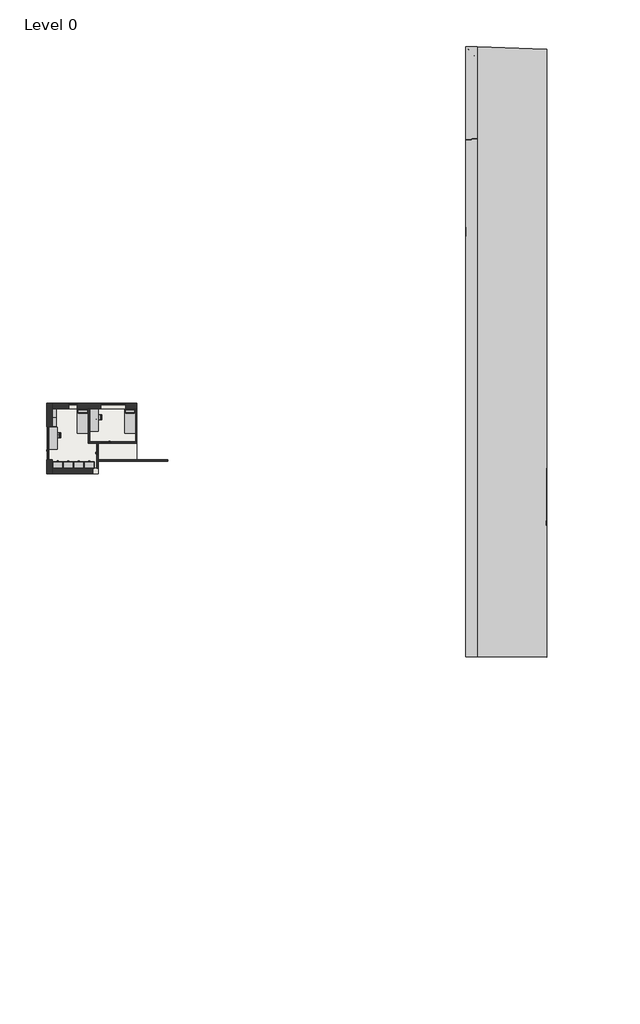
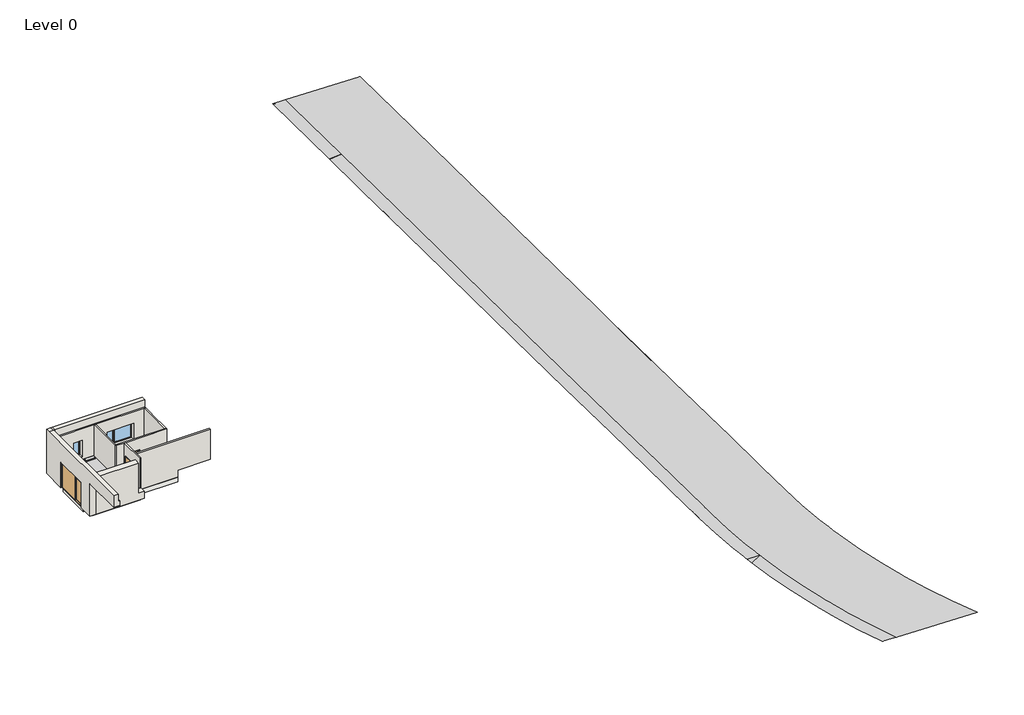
# One storey, incomplete: 12 furniture elements, 8 walls, 3 doors, 2 proxies, 2 windows, 1 slab.
"""IFC4 building model written with IfcOpenShell, lengths in millimetres."""

from ifc_helpers import new_model, si_unit, frame, origin, place, context, project, spatial, polyline, outline, extrude, faceted_brep, triangles, transform, mapped, element, save
from components import ext_door_window_assembly_glass_2880x2200_mm_8e24472b, int_single_flush1_900x2200_mm_083ae047, int_single_flush1_900x2200_mm_924e3177, furniture_56f83323, furniture_1900_x_700mm_ac9d8d07, furniture_750_x_300_x_700mm_660817c4, bed_standard_2100_x_900mm_af0b1266, tall_cabinet_double_door_900_mm_12ca9f50, single_light_720x1400_mm_50d61ae6, window_assembly_individual_2160x1400_mm_9c06a6f2

model = new_model("IFC4")

# Units and contexts
model_context = context("Model", 3, world=origin())
ifc_project = project(units=[si_unit("LENGTHUNIT", "METRE", prefix="MILLI")], contexts=[model_context])

# Site, building, storey
site = spatial("IfcSite", under=ifc_project)
building = spatial("IfcBuilding", under=site)
storey = spatial("IfcBuildingStorey", under=building, Name="Level 0", Elevation=-600.0)

# Proxies
placement = place(None, origin())
element("IfcBuildingElementProxy", 1, Name="Building Element Proxy", at=placement, inside=storey, context=model_context, shape_type="Tessellation", body=[
    triangles([(43181.6805176, 40515.4990723, -100.0000008), (37203.5361145, 40724.2584229, -100.0000008), (37199.9991211, 40724.3839966, -100.0000008), (37199.9991211, 39671.6947632, -86.6964796), (37199.9991211, 32813.720343, 0.0), (37199.9991211, 32782.3641174, 0.3775577), (37199.9991211, 25025.3120178, 100.0000008), (37199.9991211, 15908.9126587, 198.5837907), (37199.9991211, 15779.7519379, 200.0000015), (37199.9991211, 15651.9027649, 201.4311097), (37199.9991211, 6719.0625504, 300.0000023), (37199.9991211, 6686.3662903, 300.4406549), (37199.9991211, -516.6359433, 400.0000031), (37199.9991211, -544.085794, 400.4496486), (37199.9991211, -6997.0037247, 500.0000038), (37199.9991211, -6998.7687332, 500.0334683), (37199.9991211, -11963.7174225, 600.0000046), (37199.9991211, -18366.1940643, 696.1991472), (37199.9991211, -18619.0902557, 700.0000053), (37199.9991211, -18662.7050354, 700.6330336), (37199.9991211, -19440.043634, 712.0087927), (37243.5825073, -21707.3866333, 745.2285673), (37374.2652283, -23971.3809998, 778.4773373), (37479.7959961, -25066.1630127, 794.5930687), (37513.2939514, -25413.6743591, 799.6886152), (37515.3008057, -25434.4893677, 800.0000061), (37542.2945068, -25714.5094849, 803.4851131), (37591.8565979, -26228.680426, 809.8311647), (37896.0333801, -28475.9502319, 837.7060621), (38286.3490906, -30709.8696899, 865.554217), (38695.5078369, -32616.2951843, 889.4398956), (38762.2223694, -32927.1413269, 893.3128424), (38880.3128357, -33389.9061035, 899.0808043), (38898.2815063, -33460.3157593, 900.0000069), (39159.5167236, -34484.0276917, 913.6351484), (39322.9532593, -35124.4862732, 922.2167467), (39967.7139038, -37298.6582153, 951.3063229), (40695.5531982, -39446.4480469, 979.9999929), (40728.360498, -39447.5921631, 979.9999929), (47214.4576172, -39674.0946167, 979.9999929), (46380.4620117, -37523.5607666, 953.9988184), (45640.8234375, -35338.7778442, 927.5374249), (44996.94646, -33123.880481, 900.6660273), (44988.3376831, -33088.5965881, 900.2372017), (44983.9844604, -33070.7720947, 900.0000069), (44450.0496094, -30883.066095, 871.4600338), (44001.1700317, -28620.5786133, 842.0294174), (43651.1588379, -26340.7038208, 812.4567312), (43569.1266357, -25589.7984924, 802.743952), (43545.8861938, -25377.0649658, 800.0000061), (43537.044873, -25296.1210693, 798.7576401), (43514.4369507, -25089.177887, 795.6694565), (43400.6718018, -24047.7577332, 780.0871954), (43250.1926147, -21746.0842712, 745.6623344), (43200.0003296, -19440.043634, 711.1860958), (43200.0003296, -18717.1447357, 700.380578), (43200.0003296, -18691.7369843, 700.0000053), (43200.0003296, -18682.6538177, 699.8644758), (43200.0003296, -11988.0205902, 600.0000046), (43200.0003296, -11640.558078, 593.4250062), (43200.0003296, -8782.1186005, 539.3352845), (43200.0003296, -6707.3708221, 500.0000038), (43200.0003296, -6656.3843994, 499.2134239), (43200.0003296, -3825.6746246, 452.8434345), (43200.0003296, -699.7119415, 402.3703526), (43200.0003296, -600.9115405, 400.0000031), (43200.0003296, -560.0916484, 401.3769902), (43200.0003296, 5044.39384, 323.9550445), (43200.0003296, 6821.8510437, 300.0000023), (43200.0003296, 6846.8942825, 299.7236565), (43200.0003296, 15755.8208405, 200.0000015), (43200.0003296, 24756.1121704, 101.3148006), (43200.0003296, 24877.6954468, 100.0000008), (43200.0003296, 24981.1495972, 98.6713482), (43200.0003296, 32874.7026672, 3.6300556), (43200.0003296, 33152.5089661, 0.2819413), (43200.0003296, 33176.3330933, 0.0), (43200.0003296, 40385.2140015, -98.1988571), (43200.0003296, 40514.857251, -100.0000008), (37204.4453613, -18619.1739716, 700.0000053), (43198.7445923, -18691.6928009, 700.0000053), (43126.3025024, -11985.4474915, 600.0000046), (43146.4501099, -599.0415602, 400.0000031), (43196.9447021, 33176.0098572, 0.0), (43528.7291016, -25378.7648621, 800.0000061)], [[22, 23, 54], [52, 24, 25], [23, 24, 53], [52, 25, 26], [80, 20, 56], [56, 20, 21], [21, 22, 55], [81, 18, 80], [20, 80, 19], [27, 52, 26], [35, 45, 34], [37, 38, 39], [36, 43, 35], [46, 33, 34], [29, 48, 28], [29, 30, 47], [46, 30, 31], [32, 46, 31], [46, 32, 33], [85, 27, 28], [36, 37, 42], [19, 80, 18], [9, 71, 8], [74, 6, 7], [1, 4, 78], [6, 75, 5], [4, 5, 84], [3, 4, 2], [9, 10, 71], [61, 16, 17], [64, 14, 15], [16, 62, 15], [17, 82, 60], [14, 65, 83], [17, 18, 82], [11, 12, 69], [2, 4, 1], [13, 14, 83], [68, 12, 13], [7, 8, 72], [70, 10, 11], [83, 68, 13], [18, 58, 82], [37, 39, 42], [53, 54, 23], [52, 85, 51], [52, 53, 24], [51, 85, 50], [27, 85, 52], [58, 59, 82], [58, 81, 57], [81, 56, 57], [81, 80, 56], [21, 55, 56], [54, 55, 22], [43, 44, 35], [41, 42, 39], [40, 41, 39], [43, 36, 42], [49, 50, 85], [49, 85, 28], [46, 47, 30], [45, 46, 34], [48, 29, 47], [44, 45, 35], [28, 48, 49], [14, 64, 65], [63, 64, 15], [15, 62, 63], [65, 66, 83], [68, 83, 67], [66, 67, 83], [68, 69, 12], [71, 10, 70], [11, 69, 70], [71, 72, 8], [61, 62, 16], [17, 60, 61], [74, 7, 73], [75, 6, 74], [76, 84, 75], [77, 84, 76], [78, 79, 1], [77, 78, 84], [5, 75, 84], [7, 72, 73], [59, 60, 82], [78, 4, 84], [58, 18, 81]], closed=False),
])
element("IfcBuildingElementProxy", 2, Name="Building Element Proxy", at=placement, inside=storey, context=model_context, shape_type="Tessellation", body=[
    triangles([(36214.3104492, 40758.8051514, -100.0000008), (36199.9996948, 40759.3027954, -100.7970179), (36199.9996948, 40755.7123169, -100.6891393), (36199.9996948, 32724.904834, -0.9608008), (36199.9996948, 32703.2852234, 0.0), (36199.9996948, 25166.5359558, 99.6477875), (36199.9996948, 25152.6530823, 99.8128483), (36199.9996948, 25146.8185547, 99.8778698), (36199.9996948, 25144.3814941, 99.9011514), (36199.9996948, 25142.1909302, 99.9101262), (36199.9996948, 25139.7096863, 99.9103623), (36199.9996948, 24352.2461243, 108.5469173), (36199.9996948, 16593.2615845, 192.1385083), (36199.9996948, 15865.8920288, 200.0000015), (36199.9996948, 6699.2172501, 300.0000023), (36199.9996948, -556.9180049, 400.0000031), (36199.9996948, -7036.0792465, 500.0000038), (36199.9996948, -11959.4700073, 600.0000046), (36199.9996948, -17865.8920441, 688.9390526), (36199.9996948, -18590.1536499, 699.6456665), (36199.9996948, -18596.641626, 699.7049652), (36199.9996948, -18601.1797211, 699.7258215), (36199.9996948, -18606.7293823, 699.7334518), (36199.9996948, -19440.043634, 710.6949921), (36242.6296509, -21701.4195557, 741.8023956), (36370.4613831, -23959.5793945, 775.587252), (36491.581897, -25240.9337402, 796.3089523), (36509.2459351, -25427.7897766, 799.0163452), (36515.5618286, -25494.6182556, 800.0000061), (36531.7631653, -25666.0217468, 802.1085983), (36583.3088562, -26211.3186951, 807.286698), (36880.8720886, -28453.4330017, 831.7234331), (37262.7301758, -30682.7434387, 859.1798967), (37728.3389648, -32896.0757813, 889.617065), (37891.2336731, -33547.4871826, 899.5252539), (37897.1263367, -33571.053186, 899.8178959), (37900.7447205, -33585.5243958, 900.0000069), (37917.315802, -33651.7901184, 900.9052568), (38277.0333801, -35090.2860352, 918.016785), (38908.0390503, -37262.2581116, 947.4351929), (39592.0252075, -39323.2369629, 978.824556), (39615.242395, -39393.1954834, 979.7900494), (39620.4560303, -39408.9061523, 979.9999929), (40695.5531982, -39446.4480469, 979.9999929), (39967.7139038, -37298.6582153, 951.3063229), (39322.9532593, -35124.4862732, 922.2167467), (39159.5167236, -34484.0276917, 913.6351484), (38898.2815063, -33460.3157593, 900.0000069), (38880.3128357, -33389.9061035, 899.0808043), (38762.2223694, -32927.1413269, 893.3128424), (38695.5078369, -32616.2951843, 889.4398956), (38286.3490906, -30709.8696899, 865.554217), (37896.0333801, -28475.9502319, 837.7060621), (37591.8565979, -26228.680426, 809.8311647), (37542.2945068, -25714.5094849, 803.4851131), (37515.3008057, -25434.4893677, 800.0000061), (37513.2939514, -25413.6743591, 799.6886152), (37479.7959961, -25066.1630127, 794.5930687), (37374.2652283, -23971.3809998, 778.4773373), (37243.5825073, -21707.3866333, 745.2285673), (37199.9991211, -19440.043634, 712.0087927), (37199.9991211, -18662.7050354, 700.6330336), (37199.9991211, -18619.0902557, 700.0000053), (37199.9991211, -18366.1940643, 696.1991472), (37199.9991211, -11963.7174225, 600.0000046), (37199.9991211, -6998.7687332, 500.0334683), (37199.9991211, -6997.0037247, 500.0000038), (37199.9991211, -544.085794, 400.4496486), (37199.9991211, -516.6359433, 400.0000031), (37199.9991211, 6686.3662903, 300.4406549), (37199.9991211, 6719.0625504, 300.0000023), (37199.9991211, 15651.9027649, 201.4311097), (37199.9991211, 15779.7519379, 200.0000015), (37199.9991211, 15908.9126587, 198.5837907), (37199.9991211, 25025.3120178, 100.0000008), (37199.9991211, 32782.3641174, 0.3775577), (37199.9991211, 32813.720343, 0.0), (37199.9991211, 39671.6947632, -86.6964796), (37199.9991211, 40724.3839966, -100.0000008), (37087.5036621, -11963.304657, 600.0000046), (37198.0155212, -6997.0990677, 500.0000038), (37172.6821838, -516.257369, 400.0000031), (37173.6821228, 6718.6114151, 300.0000023), (37112.6416626, 15780.1007538, 200.0000015), (37183.8559204, 25025.7073425, 100.0000008), (36210.9199585, -18600.4937164, 700.0000053), (36207.8457275, 25144.618689, 100.0000008), (37176.9540161, 32812.3297302, 0.0), (37495.5368958, -25434.6730774, 800.0000061), (38837.1898865, -33464.2271484, 900.0000069), (36215.9638367, 32712.8916138, 0.0)], [[23, 24, 86], [22, 86, 21], [86, 22, 23], [21, 86, 20], [19, 86, 64], [19, 80, 18], [19, 20, 86], [80, 17, 18], [82, 15, 16], [16, 17, 81], [80, 19, 65], [28, 89, 27], [55, 30, 31], [29, 30, 89], [29, 89, 28], [25, 61, 24], [26, 60, 25], [68, 82, 16], [80, 66, 17], [70, 15, 82], [81, 17, 66], [59, 26, 27], [62, 86, 24], [31, 32, 54], [83, 15, 70], [87, 8, 9], [11, 87, 10], [10, 87, 9], [87, 7, 8], [78, 3, 4], [91, 4, 5], [87, 6, 7], [91, 5, 76], [2, 3, 1], [12, 87, 11], [12, 85, 87], [14, 74, 13], [87, 85, 6], [84, 74, 14], [72, 84, 14], [83, 72, 15], [12, 13, 75], [72, 14, 15], [5, 6, 76], [1, 3, 78], [91, 88, 4], [91, 76, 88], [4, 88, 78], [78, 79, 1], [77, 78, 88], [88, 76, 77], [76, 6, 85], [85, 12, 75], [16, 81, 68], [35, 50, 34], [37, 90, 36], [36, 90, 35], [37, 38, 90], [32, 53, 54], [52, 33, 34], [55, 31, 54], [52, 53, 33], [51, 52, 34], [51, 34, 50], [38, 39, 47], [45, 40, 41], [44, 41, 42], [44, 45, 41], [44, 42, 43], [40, 45, 46], [50, 90, 49], [50, 35, 90], [49, 90, 48], [47, 48, 90], [90, 38, 47], [46, 47, 39], [40, 46, 39], [63, 86, 62], [65, 66, 80], [19, 64, 65], [64, 86, 63], [76, 85, 75], [75, 13, 74], [72, 73, 84], [74, 84, 73], [66, 67, 81], [72, 83, 71], [24, 61, 62], [27, 58, 59], [27, 89, 58], [58, 89, 57], [56, 57, 89], [55, 56, 89], [30, 55, 89], [70, 71, 83], [68, 69, 82], [67, 68, 81], [69, 70, 82], [60, 26, 59], [25, 60, 61], [32, 33, 53]], closed=False),
])

# Doors
ext_door_window_assembly_glass_2880x2200_mm_shape = ext_door_window_assembly_glass_2880x2200_mm_8e24472b(model_context)
element("IfcDoor", 3, ObjectType="Ext. Door Window Assembly - Glass : 2880x2200 mm", at=placement, inside=storey, context=model_context, shape_type="MappedRepresentation", body=[
    mapped(ext_door_window_assembly_glass_2880x2200_mm_shape, transform((240.0, 6480.0, -600.0), x_axis=(0.0, -1.0, 0.0), y_axis=(1.0, 0.0, 0.0), z_axis=(0.0, 0.0, 1.0))),
])
int_single_flush1_900x2200_mm_shape = int_single_flush1_900x2200_mm_083ae047(model_context)
element("IfcDoor", 4, ObjectType="Int. Single-Flush1 : 900x2200 mm", at=placement, inside=storey, context=model_context, shape_type="MappedRepresentation", body=[
    mapped(int_single_flush1_900x2200_mm_shape, transform((4380.0, 5910.0, -600.0), x_axis=(0.0, 1.0, 0.0), y_axis=(-1.0, 0.0, 0.0), z_axis=(0.0, 0.0, 1.0))),
])
int_single_flush1_900x2200_mm_2_shape = int_single_flush1_900x2200_mm_924e3177(model_context)
element("IfcDoor", 5, ObjectType="Int. Single-Flush1 : 900x2200 mm", at=placement, inside=storey, context=model_context, shape_type="MappedRepresentation", body=[
    mapped(int_single_flush1_900x2200_mm_2_shape, transform((5130.0, 6540.0, -600.0), x_axis=(-1.0, 0.0, 0.0), y_axis=(0.0, -1.0, 0.0), z_axis=(0.0, 0.0, 1.0))),
])

# Furniture
furniture_shape = furniture_56f83323(model_context)
element("IfcFurniture", 6, ObjectType="Chair - Allround : Chair - allround", at=placement, inside=storey, context=model_context, shape_type="MappedRepresentation", body=[
    mapped(furniture_shape, transform((905.0, 7180.0, -600.0), x_axis=(0.0, -1.0000000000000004, 0.0), y_axis=(1.0000000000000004, 0.0, 0.0), z_axis=(0.0, 0.0, 1.0))),
])
element("IfcFurniture", 7, ObjectType="Chair - Allround : Chair - allround", at=placement, inside=storey, context=model_context, shape_type="MappedRepresentation", body=[
    mapped(furniture_shape, transform((4460.0, 8740.0, -600.0), x_axis=(0.0, -1.0000000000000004, 0.0), y_axis=(1.0000000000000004, 0.0, 0.0), z_axis=(0.0, 0.0, 1.0))),
])
furniture_1900_x_700mm_shape = furniture_1900_x_700mm_ac9d8d07(model_context)
element("IfcFurniture", 8, ObjectType="Table - Allround : 1900 x 700mm", at=placement, inside=storey, context=model_context, shape_type="MappedRepresentation", body=[
    mapped(furniture_1900_x_700mm_shape, transform((555.0, 6930.0, -600.0), x_axis=(0.0, 1.0, 0.0), y_axis=(-1.0, 0.0, 0.0), z_axis=(0.0, 0.0, 1.0))),
])
element("IfcFurniture", 9, ObjectType="Table - Allround : 1900 x 700mm", at=placement, inside=storey, context=model_context, shape_type="MappedRepresentation", body=[
    mapped(furniture_1900_x_700mm_shape, transform((4110.0, 8490.0, -600.0), x_axis=(0.0, 1.0, 0.0), y_axis=(-1.0, 0.0, 0.0), z_axis=(0.0, 0.0, 1.0))),
])
furniture_750_x_300_x_700mm_shape = furniture_750_x_300_x_700mm_660817c4(model_context)
element("IfcFurniture", 10, ObjectType="Shelving (Floor) - Allround : 750 x 300 x 700mm", at=placement, inside=storey, context=model_context, shape_type="MappedRepresentation", body=[
    mapped(furniture_750_x_300_x_700mm_shape, transform((365.2, 9065.0, -600.0), x_axis=(0.0, 1.0000000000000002, 0.0), y_axis=(-1.0000000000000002, 0.0, 0.0), z_axis=(0.0, 0.0, 1.0))),
])
element("IfcFurniture", 11, ObjectType="Shelving (Floor) - Allround : 750 x 300 x 700mm", at=placement, inside=storey, context=model_context, shape_type="MappedRepresentation", body=[
    mapped(furniture_750_x_300_x_700mm_shape, transform((365.2, 8315.0, -600.0), x_axis=(0.0, 1.0000000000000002, 0.0), y_axis=(-1.0000000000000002, 0.0, 0.0), z_axis=(0.0, 0.0, 1.0))),
])
bed_standard_2100_x_900mm_shape = bed_standard_2100_x_900mm_af0b1266(model_context)
element("IfcFurniture", 12, ObjectType="Bed - Standard : 2100 x 900mm", at=placement, inside=storey, context=model_context, shape_type="MappedRepresentation", body=[
    mapped(bed_standard_2100_x_900mm_shape, transform((2838.5114754, 8435.595082, -600.0), x_axis=(1.0, 0.0, 0.0), y_axis=(0.0, 1.0, 0.0), z_axis=(0.0, 0.0, 1.0))),
])
element("IfcFurniture", 13, ObjectType="Bed - Standard : 2100 x 900mm", at=placement, inside=storey, context=model_context, shape_type="MappedRepresentation", body=[
    mapped(bed_standard_2100_x_900mm_shape, transform((6918.5114754, 8435.595082, -600.0), x_axis=(1.0, 0.0, 0.0), y_axis=(0.0, 1.0, 0.0), z_axis=(0.0, 0.0, 1.0))),
])
tall_cabinet_double_door_900_mm_shape = tall_cabinet_double_door_900_mm_12ca9f50(model_context)
element("IfcFurniture", 14, ObjectType="Tall Cabinet - Double door : 900 mm", at=placement, inside=storey, context=model_context, shape_type="MappedRepresentation", body=[
    mapped(tall_cabinet_double_door_900_mm_shape, transform((1014.7003264, 4320.0, -600.0), x_axis=(-1.0000000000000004, 0.0, 0.0), y_axis=(0.0, -1.0000000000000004, 0.0), z_axis=(0.0, 0.0, 1.0))),
])
element("IfcFurniture", 15, ObjectType="Tall Cabinet - Double door : 900 mm", at=placement, inside=storey, context=model_context, shape_type="MappedRepresentation", body=[
    mapped(tall_cabinet_double_door_900_mm_shape, transform((1914.7003264, 4320.0, -600.0), x_axis=(-1.0000000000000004, 0.0, 0.0), y_axis=(0.0, -1.0000000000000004, 0.0), z_axis=(0.0, 0.0, 1.0))),
])
element("IfcFurniture", 16, ObjectType="Tall Cabinet - Double door : 900 mm", at=placement, inside=storey, context=model_context, shape_type="MappedRepresentation", body=[
    mapped(tall_cabinet_double_door_900_mm_shape, transform((2814.7003264, 4320.0, -600.0), x_axis=(-1.0000000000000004, 0.0, 0.0), y_axis=(0.0, -1.0000000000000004, 0.0), z_axis=(0.0, 0.0, 1.0))),
])
element("IfcFurniture", 17, ObjectType="Tall Cabinet - Double door : 900 mm", at=placement, inside=storey, context=model_context, shape_type="MappedRepresentation", body=[
    mapped(tall_cabinet_double_door_900_mm_shape, transform((3714.7003264, 4320.0, -600.0), x_axis=(-1.0000000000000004, 0.0, 0.0), y_axis=(0.0, -1.0000000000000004, 0.0), z_axis=(0.0, 0.0, 1.0))),
])

# Slab
element("IfcSlab", 18, ObjectType="Generic - 400mm (Ground)", at=placement, inside=storey, context=model_context, shape_type="SweptSolid", body=[
    extrude(outline(polyline([(7800.0, 9480.0), (7800.0, 4920.0), (4440.0, 4920.0), (4440.0, 4320.0), (480.0, 4320.0), (480.0, 5040.0), (165.0, 5040.0), (165.0, 7920.0), (480.0, 7920.0), (480.0, 9480.0), (7800.0, 9480.0)])), frame((0.0, 0.0, -1000.0), z_axis=(0.0, 0.0, 1.0), x_axis=(1.0, 0.0, 0.0)), (0.0, 0.0, 1.0), 400.0),
])

# Walls
element("IfcWall", 19, ObjectType="Generic - 120mm (Interior)", at=placement, inside=storey, context=model_context, shape_type="Brep", body=[
    faceted_brep([(3600.0, 9480.0, -600.0), (3600.0, 6480.0, -600.0), (3600.0, 6480.0, 2600.0), (3600.0, 9480.0, 2600.0), (3720.0, 9480.0, -600.0), (3720.0, 9480.0, 2600.0), (3720.0, 6600.0, 2600.0), (3720.0, 6480.0, 2600.0), (3720.0, 6480.0, -600.0), (3720.0, 6600.0, -600.0)], [[[0, 1, 2, 3]], [[4, 5, 6, 7, 8, 9]], [[1, 0, 4, 9, 8]], [[2, 1, 8, 7]], [[0, 3, 5, 4]], [[3, 2, 7, 6, 5]]]),
])
element("IfcWall", 20, ObjectType="Generic - 120mm (Interior)", at=placement, inside=storey, context=model_context, shape_type="Brep", body=[
    faceted_brep([(3720.0, 6480.0, 2600.0), (3720.0, 6480.0, -600.0), (4320.0, 6480.0, -600.0), (4440.0, 6480.0, -600.0), (4680.0, 6480.0, -600.0), (4680.0, 6480.0, 1600.0), (5580.0, 6480.0, 1600.0), (5580.0, 6480.0, -600.0), (7800.0, 6480.0, -600.0), (7800.0, 6480.0, 0.0), (7800.0, 6480.0, 2600.0), (4440.0, 6480.0, 2600.0), (4320.0, 6480.0, 2600.0), (3720.0, 6600.0, -600.0), (3720.0, 6600.0, 2600.0), (7680.0, 6600.0, 2600.0), (7800.0, 6600.0, 2600.0), (7800.0, 6600.0, 0.0), (7800.0, 6600.0, -600.0), (7680.0, 6600.0, -600.0), (5580.0, 6600.0, -600.0), (5580.0, 6600.0, 1600.0), (4680.0, 6600.0, 1600.0), (4680.0, 6600.0, -600.0)], [[[0, 1, 2, 3, 4, 5, 6, 7, 8, 9, 10, 11, 12]], [[13, 14, 15, 16, 17, 18, 19, 20, 21, 22, 23]], [[1, 13, 23, 4, 3, 2]], [[18, 8, 7, 20, 19]], [[1, 0, 14, 13]], [[22, 5, 4, 23]], [[5, 22, 21, 6]], [[6, 21, 20, 7]], [[0, 12, 11, 10, 16, 15, 14]], [[8, 18, 17, 16, 10, 9]]]),
])
element("IfcWall", 21, ObjectType="Generic - 120mm (Interior)", at=placement, inside=storey, context=model_context, shape_type="Brep", body=[
    faceted_brep([(4440.0, 6480.0, -600.0), (4440.0, 6480.0, 2600.0), (4440.0, 5040.0, 2600.0), (4440.0, 4920.0, 2600.0), (4440.0, 4320.0, 2600.0), (4440.0, 4320.0, 0.0), (4440.0, 4320.0, -600.0), (4440.0, 4920.0, -600.0), (4440.0, 5040.0, -600.0), (4440.0, 5460.0, -600.0), (4440.0, 5460.0, 1600.0), (4440.0, 6360.0, 1600.0), (4440.0, 6360.0, -600.0), (4320.0, 6480.0, 2600.0), (4320.0, 6480.0, -600.0), (4320.0, 6360.0, -600.0), (4320.0, 6360.0, 1600.0), (4320.0, 5460.0, 1600.0), (4320.0, 5460.0, -600.0), (4320.0, 4320.0, -600.0), (4320.0, 4320.0, 2600.0)], [[[0, 1, 2, 3, 4, 5, 6, 7, 8, 9, 10, 11, 12]], [[13, 14, 15, 16, 17, 18, 19, 20]], [[14, 0, 12, 15]], [[6, 19, 18, 9, 8, 7]], [[1, 0, 14, 13]], [[6, 5, 4, 20, 19]], [[11, 16, 15, 12]], [[16, 11, 10, 17]], [[17, 10, 9, 18]], [[4, 3, 2, 1, 13, 20]]]),
])
element("IfcWall", 22, ObjectType="Generic - 120mm (Interior)", at=placement, inside=storey, context=model_context, shape_type="Brep", body=[
    faceted_brep([(7800.0, 6600.0, 2600.0), (7800.0, 6600.0, -600.0), (7800.0, 9480.0, -600.0), (7800.0, 9480.0, 2600.0), (7800.0, 8640.0, 2600.0), (7800.0, 8520.0, 2600.0), (7680.0, 6600.0, -600.0), (7680.0, 6600.0, 2600.0), (7680.0, 9480.0, 2600.0), (7680.0, 9480.0, -600.0)], [[[0, 1, 2, 3, 4, 5]], [[6, 7, 8, 9]], [[2, 1, 6, 9]], [[3, 2, 9, 8]], [[0, 5, 4, 3, 8, 7]], [[0, 7, 6, 1]]]),
])
element("IfcWall", 23, ObjectType="Generic - 120mm (Interior)", at=placement, inside=storey, context=model_context, shape_type="SweptSolid", body=[
    extrude(outline(polyline([(-600.0, 4440.0), (-600.0, 7800.0), (0.0, 7800.0), (0.0, 10440.0), (2600.0, 10440.0), (2600.0, 4440.0), (-600.0, 4440.0)])), frame((0.0, 4920.0, 0.0), z_axis=(0.0, 1.0, 0.0), x_axis=(0.0, 0.0, 1.0)), (0.0, 0.0, 1.0), 120.0),
])
element("IfcWall", 24, ObjectType="Generic - 480mm (Exterior)", at=placement, inside=storey, context=model_context, shape_type="Brep", body=[
    faceted_brep([(480.0, 9960.0, -600.0), (480.0, 9960.0, 3200.0), (480.0, 9600.0, 3200.0), (480.0, 9600.0, 2600.0), (480.0, 9480.0, 2600.0), (480.0, 4320.0, 2600.0), (480.0, 3840.0, 2600.0), (480.0, 480.0, 2600.0), (480.0, 480.0, 2200.0), (480.0, 3840.0, 2200.0), (480.0, 3840.0, -600.0), (480.0, 4320.0, -600.0), (480.0, 5040.0, -600.0), (480.0, 5040.0, 1600.0), (480.0, 7920.0, 1600.0), (480.0, 7920.0, -600.0), (480.0, 9480.0, -600.0), (0.0, 9960.0, 3200.0), (0.0, 9960.0, -600.0), (0.0, 7920.0, -600.0), (0.0, 7920.0, 1600.0), (0.0, 5040.0, 1600.0), (0.0, 5040.0, -600.0), (0.0, 3840.0, -600.0), (0.0, 3840.0, 2200.0), (0.0, 480.0, 2200.0), (0.0, 480.0, 3200.0), (0.0, 9600.0, 3200.0), (360.0, 9960.0, 3200.0), (360.0, 480.0, 2600.0), (360.0, 480.0, 3200.0), (360.0, 9600.0, 3200.0), (360.0, 9600.0, 2600.0)], [[[0, 1, 2, 3, 4, 5, 6, 7, 8, 9, 10, 11, 12, 13, 14, 15, 16]], [[17, 18, 19, 20, 21, 22, 23, 24, 25, 26, 27]], [[1, 0, 18, 17, 28]], [[21, 13, 12, 22]], [[13, 21, 20, 14]], [[14, 20, 19, 15]], [[18, 0, 16, 15, 19]], [[10, 23, 22, 12, 11]], [[9, 8, 25, 24]], [[10, 9, 24, 23]], [[8, 7, 29, 30, 26, 25]], [[3, 2, 31, 32]], [[27, 26, 30, 31]], [[31, 30, 29, 32]], [[2, 1, 28, 31]], [[17, 27, 31, 28]], [[3, 32, 29, 7, 6, 5, 4]]]),
])
element("IfcWall", 25, ObjectType="Generic - 480mm (Exterior)", at=placement, inside=storey, context=model_context, shape_type="Brep", body=[
    faceted_brep([(480.0, 9480.0, -600.0), (3600.0, 9480.0, -600.0), (3720.0, 9480.0, -600.0), (7800.0, 9480.0, -600.0), (7800.0, 9480.0, 0.0), (7800.0, 9480.0, 2600.0), (3720.0, 9480.0, 2600.0), (3600.0, 9480.0, 2600.0), (480.0, 9480.0, 2600.0), (6840.0, 9480.0, 1600.0), (6840.0, 9480.0, 200.0), (4680.0, 9480.0, 200.0), (4680.0, 9480.0, 1600.0), (1920.0, 9480.0, 200.0), (1920.0, 9480.0, 1600.0), (2640.0, 9480.0, 1600.0), (2640.0, 9480.0, 200.0), (7800.0, 9960.0, -600.0), (480.0, 9960.0, -600.0), (480.0, 9960.0, 3200.0), (7800.0, 9960.0, 3200.0), (7800.0, 9960.0, 0.0), (6840.0, 9960.0, 200.0), (6840.0, 9960.0, 1600.0), (4680.0, 9960.0, 1600.0), (4680.0, 9960.0, 200.0), (1920.0, 9960.0, 1600.0), (1920.0, 9960.0, 200.0), (2640.0, 9960.0, 200.0), (2640.0, 9960.0, 1600.0), (7800.0, 9600.0, 3200.0), (7800.0, 9600.0, 2600.0), (480.0, 9600.0, 2600.0), (480.0, 9600.0, 3200.0)], [[[0, 1, 2, 3, 4, 5, 6, 7, 8], [9, 10, 11, 12], [13, 14, 15, 16]], [[17, 18, 19, 20, 21], [22, 23, 24, 25], [26, 27, 28, 29]], [[3, 2, 1, 0, 18, 17]], [[5, 4, 3, 17, 21, 20, 30, 31]], [[0, 8, 32, 33, 19, 18]], [[22, 10, 9, 23]], [[24, 12, 11, 25]], [[10, 22, 25, 11]], [[13, 27, 26, 14]], [[28, 16, 15, 29]], [[27, 13, 16, 28]], [[12, 24, 23, 9]], [[29, 15, 14, 26]], [[20, 19, 33, 30]], [[30, 33, 32, 31]], [[32, 8, 7, 6, 5, 31]]]),
])
element("IfcWall", 26, ObjectType="Generic - 480mm (Exterior)", at=placement, inside=storey, context=model_context, shape_type="Brep", body=[
    faceted_brep([(4440.0, 4320.0, -600.0), (4320.0, 4320.0, -600.0), (480.0, 4320.0, -600.0), (480.0, 4320.0, 2600.0), (3960.0, 4320.0, 2600.0), (3960.0, 4320.0, 0.0), (4440.0, 4320.0, 0.0), (4440.0, 3840.0, -600.0), (4440.0, 3840.0, 0.0), (3960.0, 3840.0, 0.0), (3960.0, 3840.0, 2200.0), (3960.0, 3840.0, 2600.0), (480.0, 3840.0, 2600.0), (480.0, 3840.0, 2200.0), (480.0, 3840.0, -600.0)], [[[0, 1, 2, 3, 4, 5, 6]], [[7, 8, 9, 10, 11, 12, 13, 14]], [[2, 1, 0, 7, 14]], [[2, 14, 13, 12, 3]], [[4, 3, 12, 11]], [[5, 9, 8, 6]], [[0, 6, 8, 7]], [[5, 4, 11, 10, 9]]]),
])

# Windows
single_light_720x1400_mm_shape = single_light_720x1400_mm_50d61ae6(model_context)
element("IfcWindow", 27, ObjectType="Single-Light : 720x1400 mm", at=placement, inside=storey, context=model_context, shape_type="MappedRepresentation", body=[
    mapped(single_light_720x1400_mm_shape, transform((2280.0, 9720.0, -600.0), x_axis=(1.0, 0.0, 0.0), y_axis=(0.0, 1.0, 0.0), z_axis=(0.0, 0.0, 1.0))),
])
window_assembly_individual_2160x1400_mm_shape = window_assembly_individual_2160x1400_mm_9c06a6f2(model_context)
element("IfcWindow", 28, ObjectType="Window Assembly Individual : 2160x1400 mm", at=placement, inside=storey, context=model_context, shape_type="MappedRepresentation", body=[
    mapped(window_assembly_individual_2160x1400_mm_shape, transform((5760.0, 9720.0, -600.0), x_axis=(-1.0, 0.0, 0.0), y_axis=(0.0, -1.0, 0.0), z_axis=(0.0, 0.0, 1.0))),
])

save(model, "model.ifc")
